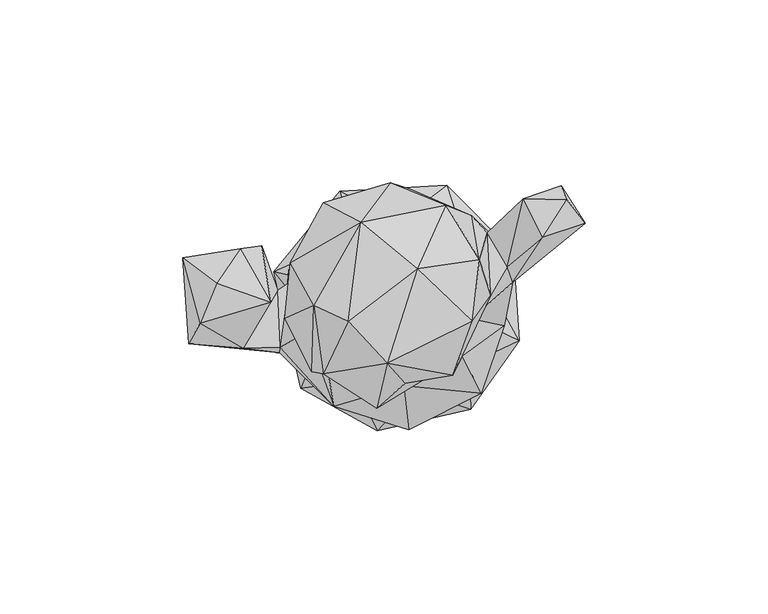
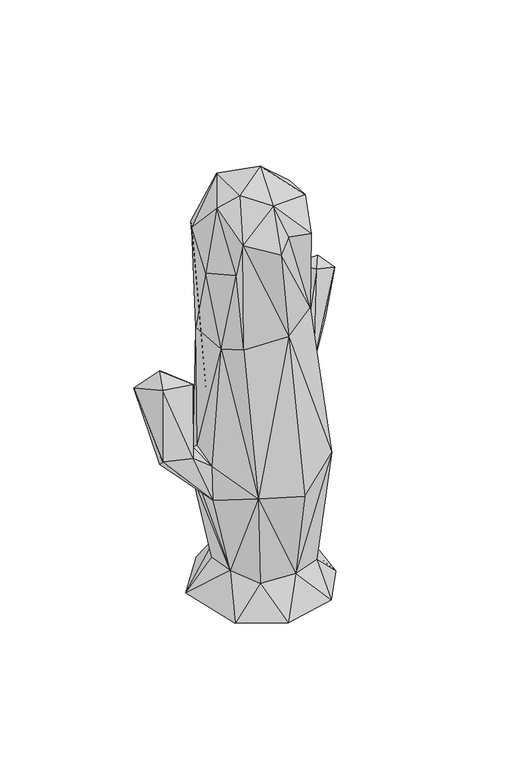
"""IFC4 building model written with IfcOpenShell, lengths in millimetres: geographic element geometry, Enscape AssetDefinition - Cactus, Porcelain 02 : Enscape AssetDefinition - Cactus, Porcelain 02."""

from ifc_helpers import new_model, si_unit, origin, place, context, project, spatial, faceted_brep, source, transform, mapped, element, save


def geographic_element_2cbf6ab3(model_context):
    return source(origin(), model_context, "Body", "Brep", [
        faceted_brep([(-32.3520005, -12.9410001, 63.5539964), (-20.5690004, -7.6899999, 17.7880004), (-17.5160002, -27.6120007, 68.1020021), (-12.3640001, -20.7349993, 15.7600008), (-30.5380002, 1.519, 59.9079989), (-29.9219992, 9.6859997, 61.8779995), (-33.9390002, 9.2409998, 0.0), (-26.5999995, -22.7150004, 0.0), (-22.0219996, 6.608, 16.7820007), (4.5710001, -23.1660008, 16.8750007), (-5.7109999, -34.3180001, 0.0), (13.3570004, 32.8610018, 0.0), (-15.8600006, 31.2249996, 0.0), (-12.1200001, 18.9030003, 18.1230009), (0.581, 23.1069997, 17.5090004), (3.119, 31.7820013, 109.2550009), (-14.6479998, 24.7639995, 96.0969999), (18.3390006, 17.1249993, 16.0259996), (20.1210007, 24.4420003, 101.9719988), (16.4359994, 24.3190005, 41.6870005), (-20.389, 28.0159991, 188.1940067), (-2.0600001, 33.4200002, 182.6270074), (-29.4610001, 11.624, 198.1640011), (-10.187, 22.6220004, 214.2480016), (13.1050004, 27.3049995, 203.7529945), (5.2240002, 9.912, 220.5310017), (-13.6360005, -4.3339999, 219.5270061), (-23.0640005, 0.003, 213.4090066), (-30.9190005, -3.5600001, 182.3939979), (-26.4539998, 13.1719997, 141.0949975), (-23.6070007, -18.2360001, 187.4240041), (-20.3750003, -18.7410004, 203.0120045), (-2.9470001, -15.8799998, 217.0329988), (-19.1879999, -17.4860004, 144.392997), (1.561, -22.0359992, 147.5239992), (-5.7600001, -28.1130001, 198.4799951), (-24.9700006, -7.3509999, 141.0599947), (-32.1820006, -11.4219999, 81.2470019), (-29.6650007, 6.1369999, 81.6660002), (2.9450001, -34.0400003, 66.1830008), (-32.9230018, 4.16, 82.8419998), (-42.2709994, -11.7939999, 89.4529969), (-50.6049991, 3.8950001, 79.7270015), (-58.7970018, 13.0110001, 118.9540029), (-43.1820005, 15.5079998, 121.4379966), (-37.3100005, 16.2109993, 104.9659997), (-34.7759984, 0.772, 119.847998), (-57.2500005, -10.4970001, 92.0260027), (-54.0009998, -4.925, 126.8599927), (-49.4860001, 5.9770001, 129.320994), (22.6980001, -23.9840001, 77.3639977), (19.4780007, -16.0840005, 14.8750003), (19.8970009, -28.4129996, 0.0), (33.1740007, -9.7449999, 0.0), (23.178, -4.857, 17.2199998), (31.5309986, 14.5340003, 0.0), (29.1029997, -5.5249999, 40.5840017), (25.4500005, 12.3810004, 34.5599987), (17.554, -13.8980001, 152.7179927), (31.3539989, 6.3390001, 106.1929986), (19.9960005, -3.673, 136.6370022), (24.8080008, 19.9640002, 105.3780019), (29.6640005, 14.5540005, 100.4669964), (24.3900008, 19.785, 120.5770001), (44.6459986, 32.6509997, 130.4589957), (45.8000004, 21.4770008, 115.832001), (51.1359982, 22.4409997, 141.2840039), (34.2869982, 29.1709993, 144.9249983), (46.0629985, 28.8880002, 145.7999945), (39.5600013, 18.5240004, 146.5629935), (29.8820008, 10.4599996, 121.0149974), (25.3630001, 2.693, 170.3539938), (20.3590002, -4.4510001, 208.2740068), (14.955, -19.1190001, 197.6139992), (22.1529994, 12.4859996, 205.0230056), (2.0339999, -21.3549994, 201.4749944)], [[[0, 1, 2]], [[2, 1, 3]], [[1, 4, 5]], [[6, 7, 1]], [[1, 8, 6]], [[0, 4, 1]], [[3, 1, 7]], [[8, 1, 5]], [[9, 2, 3]], [[10, 3, 7]], [[9, 3, 10]], [[11, 7, 6]], [[11, 10, 7]], [[12, 11, 6]], [[13, 6, 8]], [[13, 12, 6]], [[8, 5, 13]], [[13, 14, 12]], [[15, 13, 16]], [[5, 16, 13]], [[13, 15, 14]], [[11, 12, 14]], [[17, 11, 14]], [[14, 15, 18]], [[18, 19, 14]], [[17, 14, 19]], [[20, 15, 16]], [[21, 18, 15]], [[20, 21, 15]], [[20, 16, 22]], [[23, 20, 22]], [[23, 21, 20]], [[24, 18, 21]], [[23, 24, 21]], [[25, 23, 26]], [[23, 22, 27]], [[26, 23, 27]], [[25, 24, 23]], [[27, 22, 28]], [[28, 22, 29]], [[29, 22, 16]], [[27, 30, 31]], [[27, 31, 26]], [[27, 28, 30]], [[26, 31, 32]], [[25, 26, 32]], [[31, 33, 34]], [[32, 31, 35]], [[31, 30, 33]], [[35, 31, 34]], [[36, 33, 30]], [[30, 28, 36]], [[36, 28, 29]], [[36, 37, 2]], [[38, 37, 36]], [[29, 38, 36]], [[33, 36, 2]], [[33, 2, 34]], [[34, 2, 39]], [[39, 2, 9]], [[2, 37, 0]], [[40, 37, 38]], [[37, 41, 0]], [[40, 41, 37]], [[38, 5, 4]], [[38, 4, 40]], [[38, 29, 5]], [[29, 16, 5]], [[40, 42, 43]], [[44, 45, 40]], [[40, 4, 42]], [[45, 46, 40]], [[40, 46, 41]], [[44, 40, 43]], [[42, 4, 0]], [[47, 43, 42]], [[47, 42, 0]], [[43, 48, 49]], [[43, 47, 48]], [[43, 49, 44]], [[44, 49, 46]], [[45, 44, 46]], [[48, 41, 46]], [[49, 48, 46]], [[47, 41, 48]], [[41, 47, 0]], [[50, 39, 9]], [[50, 34, 39]], [[50, 9, 51]], [[51, 9, 52]], [[52, 9, 10]], [[53, 51, 52]], [[53, 54, 51]], [[54, 50, 51]], [[10, 53, 52]], [[53, 10, 11]], [[55, 53, 11]], [[55, 17, 53]], [[53, 17, 54]], [[54, 56, 50]], [[56, 54, 17]], [[19, 57, 17]], [[17, 55, 11]], [[17, 57, 56]], [[58, 50, 56]], [[59, 60, 56]], [[60, 58, 56]], [[56, 57, 59]], [[19, 61, 57]], [[57, 62, 59]], [[61, 62, 57]], [[18, 61, 19]], [[63, 61, 18]], [[64, 61, 63]], [[61, 65, 62]], [[61, 64, 65]], [[62, 65, 59]], [[65, 66, 59]], [[66, 65, 64]], [[63, 67, 64]], [[68, 64, 67]], [[64, 68, 66]], [[69, 59, 66]], [[68, 69, 66]], [[68, 67, 69]], [[67, 70, 69]], [[67, 63, 70]], [[70, 59, 69]], [[71, 70, 63]], [[70, 60, 59]], [[60, 70, 71]], [[71, 72, 73]], [[74, 71, 63]], [[60, 71, 73]], [[74, 72, 71]], [[58, 60, 73]], [[73, 75, 58]], [[73, 32, 75]], [[72, 32, 73]], [[72, 25, 32]], [[72, 74, 25]], [[18, 74, 63]], [[24, 74, 18]], [[74, 24, 25]], [[75, 32, 35]], [[58, 75, 35]], [[34, 50, 58]], [[58, 35, 34]]]),
    ])


if __name__ == "__main__":
    model = new_model("IFC4")
    model_context = context("Model", 3, world=origin())
    ifc_project = project(units=[si_unit("LENGTHUNIT", "METRE", prefix="MILLI")], contexts=[model_context])
    site = spatial("IfcSite", under=ifc_project)
    building = spatial("IfcBuilding", under=site)
    placement = place(None, origin())
    geographic_element_shape = geographic_element_2cbf6ab3(model_context)
    element("IfcGeographicElement", 1, ObjectType="Enscape AssetDefinition - Cactus, Porcelain 02 : Enscape AssetDefinition - Cactus, Porcelain 02", at=placement, inside=building, context=model_context, shape_type="MappedRepresentation", body=[
        mapped(geographic_element_shape, transform((0.0, 0.0, 0.0), x_axis=(1.0, 0.0, 0.0), y_axis=(0.0, 1.0, 0.0), z_axis=(0.0, 0.0, 1.0))),
    ])
    save(model, "model.ifc")
